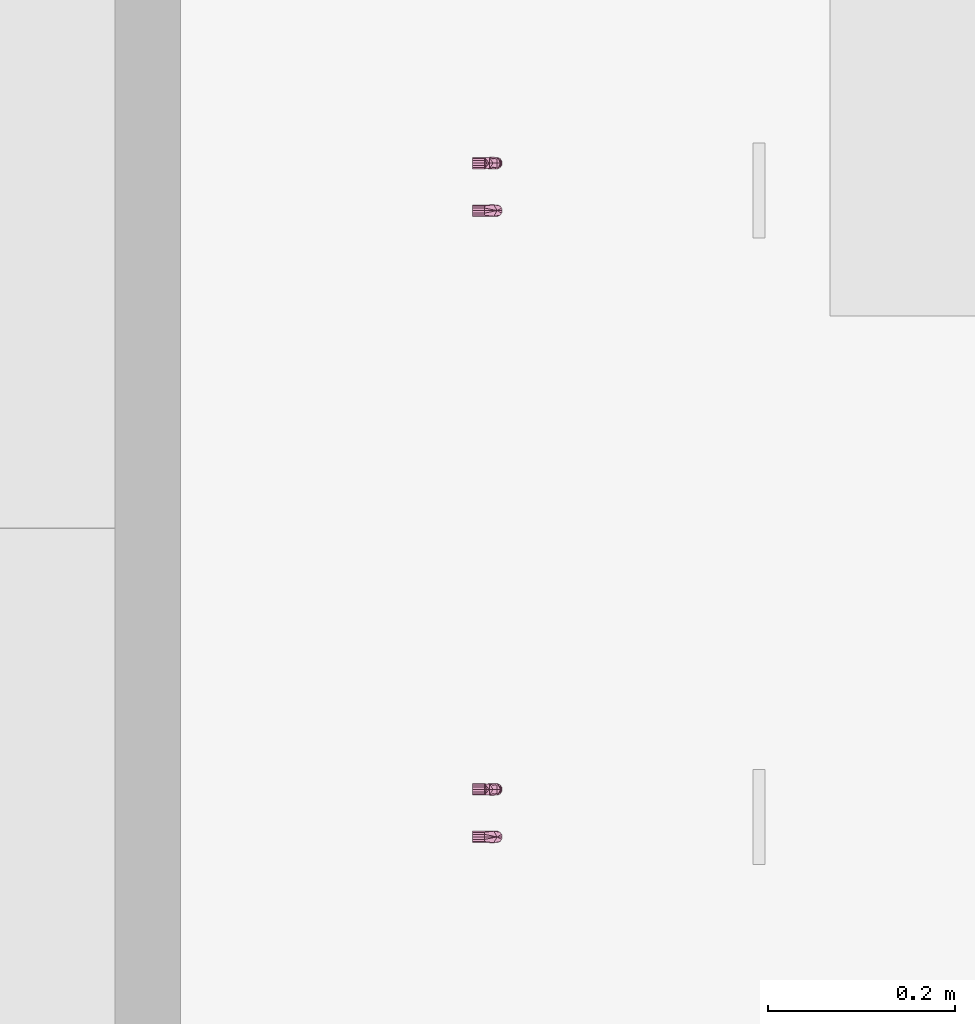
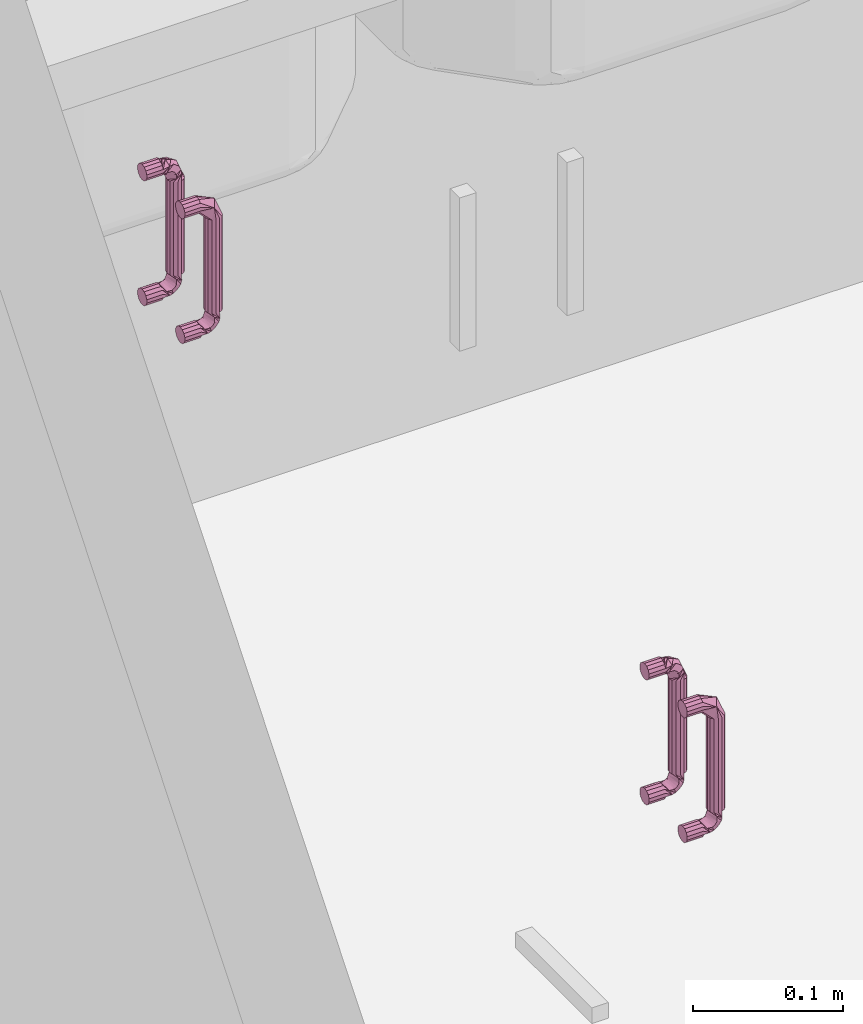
# One storey, part 29 of 40: 2 furnishings.
"""IFC2X3 building model written with IfcOpenShell, lengths in metres."""

from ifc_helpers import new_model, entity, si_unit, converted_unit, derived_unit, direction, frame, origin, place, context, subcontext, project, spatial, faceted_brep, source, transform, mapped, material, type_object, type_shapes, element, save


model = new_model("IFC2X3")

# Units and contexts
model_context = context("Model", 3, precision=1e-05, world=origin(), true_north=direction((6.12303176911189e-17, 1.0)))
body_context = subcontext(model_context, "Body", "Model", "MODEL_VIEW")
ifc_project = project(units=[si_unit("LENGTHUNIT", "METRE"), si_unit("AREAUNIT", "SQUARE_METRE"), si_unit("VOLUMEUNIT", "CUBIC_METRE"), converted_unit("PLANEANGLEUNIT", "DEGREE", entity("IfcRatioMeasure", 0.0174532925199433), si_unit("PLANEANGLEUNIT", "RADIAN"), dimensions=[0, 0, 0, 0, 0, 0, 0]), si_unit("MASSUNIT", "GRAM", prefix="KILO"), derived_unit("MASSDENSITYUNIT", [(si_unit("MASSUNIT", "GRAM", prefix="KILO"), 1), (si_unit("LENGTHUNIT", "METRE"), -3)]), si_unit("TIMEUNIT", "SECOND"), si_unit("FREQUENCYUNIT", "HERTZ"), si_unit("THERMODYNAMICTEMPERATUREUNIT", "DEGREE_CELSIUS"), derived_unit("THERMALTRANSMITTANCEUNIT", [(si_unit("MASSUNIT", "GRAM", prefix="KILO"), 1), (si_unit("THERMODYNAMICTEMPERATUREUNIT", "KELVIN"), -1), (si_unit("TIMEUNIT", "SECOND"), -3)]), derived_unit("VOLUMETRICFLOWRATEUNIT", [(si_unit("LENGTHUNIT", "METRE"), 3), (si_unit("TIMEUNIT", "SECOND"), -1)]), si_unit("ELECTRICCURRENTUNIT", "AMPERE"), si_unit("ELECTRICVOLTAGEUNIT", "VOLT"), si_unit("POWERUNIT", "WATT"), si_unit("FORCEUNIT", "NEWTON", prefix="KILO"), si_unit("ILLUMINANCEUNIT", "LUX"), si_unit("LUMINOUSFLUXUNIT", "LUMEN"), si_unit("LUMINOUSINTENSITYUNIT", "CANDELA"), derived_unit("USERDEFINED", [(si_unit("MASSUNIT", "GRAM", prefix="KILO"), -1), (si_unit("LENGTHUNIT", "METRE"), -2), (si_unit("TIMEUNIT", "SECOND"), 3), (si_unit("LUMINOUSFLUXUNIT", "LUMEN"), 1)]), derived_unit("LINEARVELOCITYUNIT", [(si_unit("LENGTHUNIT", "METRE"), 1), (si_unit("TIMEUNIT", "SECOND"), -1)]), si_unit("PRESSUREUNIT", "PASCAL"), derived_unit("USERDEFINED", [(si_unit("LENGTHUNIT", "METRE"), -2), (si_unit("MASSUNIT", "GRAM", prefix="KILO"), 1), (si_unit("TIMEUNIT", "SECOND"), -2)])], contexts=[model_context])

# Site, building, storey, space
site_placement = place(None, origin())
site = spatial("IfcSite", under=ifc_project, at=site_placement, Name="Surface", CompositionType="ELEMENT")
building_placement = place(site_placement, origin())
building = spatial("IfcBuilding", under=site, at=building_placement, CompositionType="ELEMENT")
storey_placement = place(building_placement, origin())
storey = spatial("IfcBuildingStorey", under=building, at=storey_placement, Name="RDC", CompositionType="ELEMENT", Elevation=-1.0941605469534e-13)
space_placement = place(storey_placement, origin())
space = spatial("IfcSpace", under=storey, at=space_placement, Name="21", CompositionType="ELEMENT", InteriorOrExteriorSpace="INTERNAL")

# Furnishings
ifc_material = material(Name="Plastique - Noir")
furniture_type = type_object("IfcFurnitureType", Name="670 mm", material=ifc_material)
shared_shape = source(origin(), body_context, "Body", "Brep", [
    faceted_brep([(0.0536136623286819, 0.0, 0.10557833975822), (0.0558231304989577, 0.0, 0.103816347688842), (0.0585782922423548, 0.0, 0.103187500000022), (0.0613334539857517, 0.0, 0.103816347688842), (0.0635429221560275, 0.0, 0.10557833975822), (0.0647690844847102, 0.0, 0.108124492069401), (0.0647690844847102, 0.0, 0.110950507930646), (0.0635429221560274, 0.0, 0.113496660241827), (0.0613334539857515, 0.0, 0.115258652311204), (0.0585782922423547, 0.0, 0.115887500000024), (0.0558231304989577, 0.0, 0.115258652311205), (0.0536136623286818, 0.0, 0.113496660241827), (0.052387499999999, 0.0, 0.110950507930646), (0.052387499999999, 0.0, 0.1081244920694), (0.0585782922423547, 0.0, 0.0142875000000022), (0.0558231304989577, 0.0, 0.0136586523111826), (0.0536136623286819, 0.0, 0.0118966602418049), (0.0523874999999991, 0.0, 0.00935050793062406), (0.0523874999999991, 0.0, 0.00652449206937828), (0.0536136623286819, 0.0, 0.00397833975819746), (0.0558231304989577, 0.0, 0.00221634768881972), (0.0585782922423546, 0.0, 0.00158750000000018), (0.0613334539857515, 0.0, 0.00221634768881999), (0.0635429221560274, 0.0, 0.00397833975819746), (0.0647690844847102, 0.0, 0.00652449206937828), (0.0647690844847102, 0.0, 0.00935050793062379), (0.0635429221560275, 0.0, 0.0118966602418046), (0.0613334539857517, 0.0, 0.0136586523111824), (0.0585782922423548, 0.0127000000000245, 0.103187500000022), (0.0613334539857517, 0.0127000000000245, 0.103816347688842), (0.0635429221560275, 0.0127000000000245, 0.10557833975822), (0.0647690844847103, 0.0127000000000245, 0.108124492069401), (0.0647690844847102, 0.0127000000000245, 0.110950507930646), (0.0647690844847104, 0.0239869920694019, 0.0206375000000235), (0.0647690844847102, 0.0268130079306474, 0.0206375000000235), (0.0647690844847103, 0.0268130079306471, 0.0968375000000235), (0.0647690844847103, 0.0239869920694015, 0.0968375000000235), (0.0647690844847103, 0.0127000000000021, 0.00652449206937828), (0.0647690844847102, 0.0127000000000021, 0.00935050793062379), (0.0635429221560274, 0.0127000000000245, 0.113496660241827), (0.0613334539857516, 0.0127000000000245, 0.115258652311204), (0.0585782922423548, 0.0127000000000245, 0.115887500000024), (0.0558231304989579, 0.0127000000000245, 0.115258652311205), (0.053613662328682, 0.0127000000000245, 0.113496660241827), (0.0523874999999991, 0.0127000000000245, 0.110950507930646), (0.0523874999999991, 0.0127000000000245, 0.1081244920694), (0.0523874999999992, 0.0268130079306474, 0.0206375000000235), (0.0523874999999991, 0.0239869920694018, 0.0206375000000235), (0.0523874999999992, 0.0239869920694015, 0.0968375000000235), (0.0523874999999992, 0.0268130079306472, 0.0968375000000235), (0.0523874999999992, 0.0127000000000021, 0.00935050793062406), (0.0523874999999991, 0.0127000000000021, 0.00652449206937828), (0.0536136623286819, 0.0127000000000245, 0.10557833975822), (0.0558231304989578, 0.0127000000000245, 0.103816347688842), (0.0647426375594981, 0.0227580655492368, 0.106895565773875), (0.0635429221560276, 0.0214408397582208, 0.0968375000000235), (0.0613334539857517, 0.0196788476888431, 0.0968375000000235), (0.0585782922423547, 0.0261703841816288, 0.110307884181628), (0.0585782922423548, 0.0171901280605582, 0.101327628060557), (0.0585782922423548, 0.0190500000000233, 0.0968375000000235), (0.0635429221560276, 0.0293591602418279, 0.0968375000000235), (0.0613334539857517, 0.0311211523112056, 0.0968375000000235), (0.0585782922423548, 0.0317500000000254, 0.0968375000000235), (0.0524139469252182, 0.0227580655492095, 0.106895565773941), (0.0536136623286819, 0.0214408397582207, 0.0968375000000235), (0.0558231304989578, 0.019678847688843, 0.0968375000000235), (0.0536136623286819, 0.029359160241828, 0.0968375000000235), (0.0558231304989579, 0.0311211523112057, 0.0968375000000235), (0.0585782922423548, 0.0190500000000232, 0.0206375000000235), (0.0613334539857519, 0.0196788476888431, 0.0206375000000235), (0.0635429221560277, 0.021440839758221, 0.0206375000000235), (0.0635429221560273, 0.0293591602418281, 0.0206375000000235), (0.0613334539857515, 0.0311211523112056, 0.0206375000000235), (0.0595979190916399, 0.0315172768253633, 0.0206375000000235), (0.0585782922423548, 0.0317500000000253, 0.0206375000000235), (0.0575586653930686, 0.0315172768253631, 0.0206375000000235), (0.055823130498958, 0.0311211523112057, 0.0206375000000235), (0.0536136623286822, 0.0293591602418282, 0.0206375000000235), (0.0536136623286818, 0.0214408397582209, 0.0206375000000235), (0.0558231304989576, 0.019678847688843, 0.0206375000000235), (0.0642824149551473, 0.0180594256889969, 0.00610394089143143), (0.0585782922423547, 0.0177817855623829, 0.00369244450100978), (0.0585782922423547, 0.0198789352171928, 0.00456111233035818), (0.0585782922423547, 0.0219760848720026, 0.00542978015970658), (0.0585782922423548, 0.0314868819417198, 0.0200022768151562), (0.0585782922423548, 0.0306975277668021, 0.018096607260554), (0.0585782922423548, 0.0312237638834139, 0.0193670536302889), (0.064282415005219, 0.0272335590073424, 0.0152780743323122), (0.0585782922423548, 0.0296450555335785, 0.0155557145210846), (0.0585782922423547, 0.0279077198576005, 0.0113614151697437), (0.0633238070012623, 0.0271480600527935, 0.0118331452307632), (0.0585782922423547, 0.0270390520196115, 0.00926426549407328), (0.0632866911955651, 0.0255502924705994, 0.00956794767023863), (0.0649134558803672, 0.0229286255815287, 0.0138673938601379), (0.0585782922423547, 0.0287763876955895, 0.0134585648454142), (0.0630302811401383, 0.0237059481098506, 0.00738339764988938), (0.0585782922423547, 0.0261703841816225, 0.00716711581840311), (0.0645648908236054, 0.0228709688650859, 0.017714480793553), (0.0595979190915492, 0.0127000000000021, 0.00182022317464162), (0.0585782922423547, 0.0127000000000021, 0.00158749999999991), (0.0585782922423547, 0.0133352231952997, 0.00185061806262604), (0.0585782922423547, 0.0139704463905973, 0.00211373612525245), (0.0585782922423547, 0.0152408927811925, 0.00263997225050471), (0.0613334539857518, 0.0127000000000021, 0.00221634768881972), (0.0645648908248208, 0.0156230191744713, 0.010466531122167), (0.0635429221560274, 0.0127000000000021, 0.0118966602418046), (0.0585782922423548, 0.0127000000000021, 0.0142875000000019), (0.0613334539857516, 0.0127000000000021, 0.0136586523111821), (0.0635429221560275, 0.0127000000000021, 0.00397833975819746), (0.0585782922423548, 0.014945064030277, 0.0152174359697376), (0.0585782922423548, 0.0181200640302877, 0.0183924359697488), (0.0585782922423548, 0.0171901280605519, 0.0161473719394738), (0.0649134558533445, 0.0194701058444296, 0.0104088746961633), (0.0649215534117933, 0.0214734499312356, 0.0118640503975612), (0.0636450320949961, 0.0210762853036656, 0.00638969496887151), (0.0585782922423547, 0.0240732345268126, 0.00629844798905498), (0.05287416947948, 0.0272335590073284, 0.0152780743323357), (0.052874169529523, 0.0180594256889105, 0.00610394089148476), (0.0575586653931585, 0.0127000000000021, 0.00182022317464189), (0.0558231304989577, 0.0127000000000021, 0.00221634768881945), (0.0525916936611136, 0.0228709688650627, 0.0177144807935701), (0.0522350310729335, 0.0214734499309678, 0.0118640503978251), (0.0522431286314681, 0.0194701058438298, 0.0104088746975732), (0.0541263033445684, 0.0237059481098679, 0.00738339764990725), (0.0536136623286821, 0.0127000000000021, 0.0118966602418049), (0.0525916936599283, 0.0156230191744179, 0.0104665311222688), (0.0522431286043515, 0.0229286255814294, 0.0138673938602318), (0.0536136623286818, 0.0127000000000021, 0.00397833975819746), (0.0535115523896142, 0.0210762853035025, 0.00638969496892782), (0.0538698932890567, 0.0255502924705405, 0.00956794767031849), (0.0538327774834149, 0.0271480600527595, 0.011833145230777), (0.0558231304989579, 0.0127000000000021, 0.0136586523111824)], [[[0, 1, 2, 3, 4, 5, 6, 7, 8, 9, 10, 11, 12, 13]], [[14, 15, 16, 17, 18, 19, 20, 21, 22, 23, 24, 25, 26, 27]], [[2, 28, 29, 3]], [[29, 30, 4, 3]], [[31, 5, 4, 30]], [[31, 32, 6, 5]], [[33, 34, 35, 36]], [[25, 24, 37, 38]], [[6, 32, 39, 7]], [[39, 40, 8, 7]], [[41, 9, 8, 40]], [[9, 41, 42, 10]], [[42, 43, 11, 10]], [[44, 12, 11, 43]], [[44, 45, 13, 12]], [[46, 47, 48, 49]], [[18, 17, 50, 51]], [[13, 45, 52, 0]], [[52, 53, 1, 0]], [[28, 2, 1, 53]], [[54, 31, 30]], [[55, 30, 29, 56]], [[39, 54, 57]], [[54, 30, 55]], [[41, 40, 57]], [[32, 54, 39]], [[54, 32, 31]], [[39, 57, 40]], [[29, 28, 58]], [[58, 59, 56]], [[60, 54, 35]], [[36, 54, 55]], [[57, 54, 60]], [[57, 61, 62]], [[60, 61, 57]], [[54, 36, 35]], [[58, 56, 29]], [[42, 41, 57]], [[57, 63, 43]], [[57, 43, 42]], [[45, 44, 63]], [[43, 63, 44]], [[64, 65, 53, 52]], [[58, 28, 53]], [[45, 63, 52]], [[49, 48, 63]], [[63, 66, 49]], [[67, 66, 57]], [[64, 63, 48]], [[59, 58, 65]], [[66, 63, 57]], [[65, 58, 53]], [[52, 63, 64]], [[67, 57, 62]], [[59, 68, 69, 56]], [[70, 33, 36, 55]], [[56, 69, 70, 55]], [[34, 71, 60, 35]], [[61, 72, 73, 74, 62]], [[71, 72, 61, 60]], [[62, 74, 75, 76, 67]], [[76, 77, 66, 67]], [[46, 49, 66, 77]], [[48, 47, 78, 64]], [[64, 78, 79, 65]], [[65, 79, 68, 59]], [[80, 81, 82, 83]], [[84, 74, 73, 72, 85, 86]], [[34, 87, 88]], [[71, 85, 72]], [[89, 90, 91]], [[92, 90, 93]], [[87, 89, 94, 88]], [[87, 34, 33]], [[92, 95, 96]], [[87, 33, 70]], [[88, 71, 34]], [[70, 69, 97]], [[98, 99, 100, 101, 102, 103]], [[92, 91, 90]], [[104, 105, 80]], [[104, 106, 107]], [[107, 105, 104]], [[102, 81, 108]], [[88, 85, 71]], [[91, 92, 96]], [[81, 37, 108]], [[104, 109, 106]], [[97, 110, 93]], [[102, 108, 103]], [[70, 97, 87]], [[111, 112, 113]], [[38, 80, 105]], [[80, 38, 37]], [[114, 95, 112]], [[68, 97, 69]], [[90, 97, 93]], [[114, 104, 80]], [[112, 109, 104]], [[110, 97, 68]], [[110, 111, 93]], [[93, 113, 92]], [[92, 113, 95]], [[112, 104, 114]], [[114, 115, 95]], [[89, 87, 90]], [[97, 90, 87]], [[111, 113, 93]], [[95, 113, 112]], [[80, 83, 114]], [[112, 111, 109]], [[115, 114, 83]], [[115, 96, 95]], [[81, 80, 37]], [[75, 74, 84, 86, 85, 76]], [[88, 46, 77]], [[116, 88, 94, 89]], [[117, 83, 82, 81]], [[76, 85, 77]], [[118, 119, 102, 101, 100, 99]], [[78, 120, 79]], [[79, 120, 68]], [[121, 122, 111]], [[123, 122, 121]], [[124, 125, 117]], [[110, 120, 126]], [[47, 116, 78]], [[50, 117, 51]], [[81, 127, 51]], [[116, 47, 46]], [[128, 122, 123]], [[85, 88, 77]], [[88, 116, 46]], [[120, 78, 116]], [[124, 117, 50]], [[127, 102, 119]], [[81, 102, 127]], [[121, 111, 126]], [[91, 129, 130]], [[117, 81, 51]], [[91, 130, 89]], [[91, 96, 129]], [[124, 131, 125]], [[130, 120, 116]], [[126, 111, 110]], [[106, 125, 131]], [[128, 125, 122]], [[126, 130, 129]], [[68, 120, 110]], [[123, 129, 96]], [[121, 126, 129]], [[128, 115, 83]], [[128, 117, 125]], [[120, 130, 126]], [[116, 89, 130]], [[123, 121, 129]], [[125, 109, 122]], [[128, 123, 115]], [[83, 117, 128]], [[123, 96, 115]], [[109, 125, 106]], [[109, 111, 122]], [[106, 14, 27, 107]], [[27, 26, 105, 107]], [[25, 38, 105, 26]], [[37, 24, 23, 108]], [[23, 22, 103, 108]], [[21, 99, 98, 103, 22]], [[99, 21, 20, 119, 118]], [[20, 19, 127, 119]], [[18, 51, 127, 19]], [[50, 17, 16, 124]], [[16, 15, 131, 124]], [[14, 106, 131, 15]]]),
    faceted_brep([(0.00502313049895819, 0.0, 0.103816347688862), (0.00777829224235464, 0.0, 0.103187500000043), (0.0105334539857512, 0.0, 0.103816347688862), (0.0127429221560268, 0.0, 0.10557833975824), (0.0139690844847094, 0.0, 0.10812449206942), (0.0139690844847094, 0.0, 0.110950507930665), (0.0127429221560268, 0.0, 0.113496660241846), (0.0105334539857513, 0.0, 0.115258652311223), (0.00777829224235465, 0.0, 0.115887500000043), (0.00502313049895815, 0.0, 0.115258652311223), (0.00281366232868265, 0.0, 0.113496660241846), (0.00158750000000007, 0.0, 0.110950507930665), (0.00158750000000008, 0.0, 0.10812449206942), (0.00281366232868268, 0.0, 0.10557833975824), (0.0127429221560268, 0.0, 0.003978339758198), (0.0139690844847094, 0.0, 0.00652449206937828), (0.0139690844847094, 0.0, 0.00935050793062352), (0.0127429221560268, 0.0, 0.0118966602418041), (0.0105334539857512, 0.0, 0.0136586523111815), (0.0077782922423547, 0.0, 0.0142875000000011), (0.00502313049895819, 0.0, 0.0136586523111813), (0.00281366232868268, 0.0, 0.0118966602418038), (0.00158750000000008, 0.0, 0.00935050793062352), (0.00158750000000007, 0.0, 0.00652449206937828), (0.00281366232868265, 0.0, 0.003978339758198), (0.00502313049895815, 0.0, 0.00221634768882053), (0.00777829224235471, 0.0, 0.00158750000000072), (0.0105334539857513, 0.0, 0.00221634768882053), (0.0077782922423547, 0.0126999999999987, 0.103187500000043), (0.0105334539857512, 0.0126999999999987, 0.103816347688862), (0.0127429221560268, 0.0126999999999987, 0.10557833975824), (0.0139690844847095, 0.0126999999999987, 0.10812449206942), (0.0139690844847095, 0.0126999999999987, 0.110950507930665), (0.0139690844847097, 0.023986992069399, 0.0206375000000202), (0.0139690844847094, 0.0268130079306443, 0.0206375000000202), (0.0139690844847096, 0.0268130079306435, 0.0968375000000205), (0.0139690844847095, 0.0239869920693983, 0.0968375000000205), (0.0139690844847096, 0.0127000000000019, 0.00652449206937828), (0.0139690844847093, 0.0127000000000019, 0.00935050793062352), (0.012742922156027, 0.0126999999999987, 0.113496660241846), (0.0105334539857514, 0.0126999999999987, 0.115258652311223), (0.00879791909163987, 0.0126999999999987, 0.115654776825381), (0.00777829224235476, 0.0126999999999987, 0.115887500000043), (0.00675866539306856, 0.0126999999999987, 0.11565477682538), (0.00502313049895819, 0.0126999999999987, 0.115258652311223), (0.00281366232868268, 0.0126999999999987, 0.113496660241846), (0.00158750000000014, 0.0126999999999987, 0.110950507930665), (0.00158750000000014, 0.0126999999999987, 0.10812449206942), (0.00158750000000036, 0.0268130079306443, 0.0206375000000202), (0.00158750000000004, 0.0239869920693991, 0.0206375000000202), (0.0015875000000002, 0.0239869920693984, 0.0968375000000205), (0.0015875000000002, 0.0268130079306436, 0.0968375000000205), (0.00158750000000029, 0.0127000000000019, 0.00935050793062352), (0.0015875, 0.0127000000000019, 0.00652449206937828), (0.00281366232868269, 0.0126999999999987, 0.10557833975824), (0.00502313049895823, 0.0126999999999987, 0.103816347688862), (0.0134824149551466, 0.0272335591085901, 0.102196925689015), (0.00777829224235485, 0.0296450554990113, 0.101919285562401), (0.00777829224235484, 0.0287763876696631, 0.104016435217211), (0.00777829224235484, 0.0279077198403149, 0.106113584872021), (0.00777829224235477, 0.0133352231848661, 0.115624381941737), (0.00777829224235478, 0.0152408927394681, 0.114835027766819), (0.00777829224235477, 0.0139704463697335, 0.115361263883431), (0.0134824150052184, 0.0180594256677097, 0.11137105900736), (0.00777829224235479, 0.0177817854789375, 0.113782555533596), (0.00777829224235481, 0.0219760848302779, 0.112045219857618), (0.0125238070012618, 0.0215043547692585, 0.111285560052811), (0.00777829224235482, 0.0240732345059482, 0.111176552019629), (0.0137648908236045, 0.015623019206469, 0.107008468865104), (0.00777829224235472, 0.0149450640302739, 0.102257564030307), (0.0141134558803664, 0.0194701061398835, 0.107066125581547), (0.0077782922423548, 0.0198789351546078, 0.112913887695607), (0.0124866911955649, 0.0237695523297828, 0.109687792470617), (0.0122302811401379, 0.0259541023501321, 0.107843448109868), (0.00777829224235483, 0.0261703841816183, 0.11030788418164), (0.00879791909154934, 0.0315172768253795, 0.0968375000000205), (0.00777829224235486, 0.0317500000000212, 0.0968375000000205), (0.00777829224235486, 0.031486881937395, 0.097472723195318), (0.00777829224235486, 0.0312237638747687, 0.0981079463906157), (0.00777829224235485, 0.0306975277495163, 0.0993783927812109), (0.0105334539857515, 0.0311211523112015, 0.0968375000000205), (0.0137648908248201, 0.022870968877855, 0.0997605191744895), (0.0127429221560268, 0.0214408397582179, 0.0968375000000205), (0.00777829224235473, 0.0190500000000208, 0.0968375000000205), (0.0105334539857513, 0.0196788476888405, 0.0968375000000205), (0.012742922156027, 0.029359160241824, 0.0968375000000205), (0.00777829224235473, 0.0181200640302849, 0.0990825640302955), (0.00777829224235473, 0.017190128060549, 0.101327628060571), (0.0141134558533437, 0.0229286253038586, 0.103607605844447), (0.0141215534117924, 0.0214734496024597, 0.105610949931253), (0.0128450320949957, 0.0269478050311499, 0.105213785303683), (0.00777829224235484, 0.0270390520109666, 0.10821073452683), (0.00207416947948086, 0.0180594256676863, 0.111371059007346), (0.00207416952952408, 0.0272335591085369, 0.102196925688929), (0.00675866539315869, 0.0315172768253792, 0.0968375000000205), (0.0050231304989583, 0.0311211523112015, 0.0968375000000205), (0.00179169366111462, 0.0156230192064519, 0.107008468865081), (0.00143503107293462, 0.0214734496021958, 0.105610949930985), (0.00144312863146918, 0.0229286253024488, 0.103607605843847), (0.00332630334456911, 0.0259541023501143, 0.107843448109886), (0.00281366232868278, 0.0214408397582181, 0.0968375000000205), (0.00179169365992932, 0.0228709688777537, 0.0997605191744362), (0.00281366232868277, 0.029359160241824, 0.0968375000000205), (0.00271155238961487, 0.0269478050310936, 0.10521378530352), (0.00144312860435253, 0.0194701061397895, 0.107066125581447), (0.00306989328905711, 0.0237695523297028, 0.109687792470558), (0.00303277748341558, 0.0215043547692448, 0.111285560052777), (0.00502313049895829, 0.0196788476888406, 0.0968375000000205), (0.00777829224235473, 0.0190500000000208, 0.0206375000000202), (0.0105334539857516, 0.0196788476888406, 0.0206375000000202), (0.0127429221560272, 0.0214408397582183, 0.0206375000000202), (0.0127429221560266, 0.0293591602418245, 0.0206375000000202), (0.0105334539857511, 0.0311211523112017, 0.0206375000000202), (0.00879791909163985, 0.0315172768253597, 0.0206375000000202), (0.00777829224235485, 0.0317500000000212, 0.0206375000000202), (0.00675866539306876, 0.0315172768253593, 0.0206375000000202), (0.00502313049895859, 0.0311211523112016, 0.0206375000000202), (0.00281366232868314, 0.0293591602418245, 0.0206375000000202), (0.00281366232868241, 0.0214408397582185, 0.0206375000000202), (0.005023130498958, 0.0196788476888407, 0.0206375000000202), (0.0134824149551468, 0.0180594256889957, 0.00610394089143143), (0.00777829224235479, 0.0177817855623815, 0.00369244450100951), (0.0077782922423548, 0.0198789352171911, 0.00456111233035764), (0.00777829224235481, 0.0219760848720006, 0.00542978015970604), (0.00777829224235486, 0.0314868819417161, 0.0200022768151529), (0.00777829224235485, 0.0306975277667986, 0.0180966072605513), (0.00777829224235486, 0.0312237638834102, 0.0193670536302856), (0.0134824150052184, 0.0272335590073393, 0.01527807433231), (0.00777829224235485, 0.0296450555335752, 0.0155557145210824), (0.00777829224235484, 0.0279077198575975, 0.0113614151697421), (0.0125238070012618, 0.0271480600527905, 0.0118331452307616), (0.00777829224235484, 0.0270390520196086, 0.00926426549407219), (0.0137648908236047, 0.0228709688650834, 0.0177144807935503), (0.00777829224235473, 0.018120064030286, 0.018392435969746), (0.0141134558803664, 0.0229286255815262, 0.013867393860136), (0.00777829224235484, 0.0287763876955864, 0.0134585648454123), (0.0124866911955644, 0.0255502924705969, 0.00956794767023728), (0.0122302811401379, 0.0237059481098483, 0.00738339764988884), (0.00777829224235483, 0.0261703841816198, 0.0071671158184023), (0.00879791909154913, 0.0127000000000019, 0.00182022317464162), (0.00777829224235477, 0.0127000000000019, 0.00158750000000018), (0.00777829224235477, 0.0133352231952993, 0.00185061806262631), (0.00777829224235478, 0.0139704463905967, 0.00211373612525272), (0.00777829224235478, 0.0152408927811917, 0.00263997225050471), (0.0105334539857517, 0.0127000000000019, 0.00221634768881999), (0.01376489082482, 0.0156230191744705, 0.0104665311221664), (0.0127429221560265, 0.0127000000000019, 0.0118966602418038), (0.0077782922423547, 0.0127000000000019, 0.0142875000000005), (0.0105334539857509, 0.0127000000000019, 0.013658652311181), (0.0127429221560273, 0.0127000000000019, 0.00397833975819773), (0.00777829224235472, 0.0149450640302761, 0.0152174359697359), (0.00777829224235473, 0.0171901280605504, 0.0161473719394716), (0.0141134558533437, 0.0194701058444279, 0.0104088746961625), (0.0141215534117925, 0.021473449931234, 0.0118640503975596), (0.0128450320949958, 0.0210762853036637, 0.00638969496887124), (0.00777829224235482, 0.0240732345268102, 0.00629844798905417), (0.00207416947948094, 0.0272335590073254, 0.0152780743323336), (0.00207416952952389, 0.0180594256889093, 0.00610394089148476), (0.00675866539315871, 0.0127000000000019, 0.00182022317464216), (0.00502313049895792, 0.0127000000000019, 0.00221634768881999), (0.00179169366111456, 0.0228709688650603, 0.0177144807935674), (0.00143503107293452, 0.0214734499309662, 0.0118640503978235), (0.00144312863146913, 0.0194701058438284, 0.0104088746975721), (0.00332630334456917, 0.0237059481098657, 0.00738339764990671), (0.00281366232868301, 0.0127000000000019, 0.0118966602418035), (0.00179169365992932, 0.015623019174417, 0.0104665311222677), (0.00281366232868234, 0.0127000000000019, 0.00397833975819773), (0.00271155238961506, 0.0210762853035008, 0.00638969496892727), (0.0014431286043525, 0.0229286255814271, 0.0138673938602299), (0.00306989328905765, 0.0255502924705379, 0.00956794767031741), (0.00303277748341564, 0.0271480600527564, 0.0118331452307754), (0.00502313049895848, 0.0127000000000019, 0.0136586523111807)], [[[0, 1, 2, 3, 4, 5, 6, 7, 8, 9, 10, 11, 12, 13]], [[14, 15, 16, 17, 18, 19, 20, 21, 22, 23, 24, 25, 26, 27]], [[1, 28, 29, 2]], [[29, 30, 3, 2]], [[31, 4, 3, 30]], [[31, 32, 5, 4]], [[33, 34, 35, 36]], [[16, 15, 37, 38]], [[5, 32, 39, 6]], [[39, 40, 7, 6]], [[7, 40, 41, 42, 8]], [[8, 42, 43, 44, 9]], [[44, 45, 10, 9]], [[46, 11, 10, 45]], [[46, 47, 12, 11]], [[48, 49, 50, 51]], [[23, 22, 52, 53]], [[12, 47, 54, 13]], [[54, 55, 0, 13]], [[28, 1, 0, 55]], [[56, 57, 58, 59]], [[60, 42, 41, 40, 61, 62]], [[32, 63, 64]], [[39, 61, 40]], [[65, 66, 67]], [[68, 69, 70]], [[63, 65, 71, 64]], [[63, 32, 31]], [[72, 73, 74]], [[63, 31, 30]], [[64, 39, 32]], [[30, 29, 68]], [[75, 76, 77, 78, 79, 80]], [[72, 67, 66]], [[81, 82, 56]], [[81, 83, 84]], [[84, 82, 81]], [[79, 57, 85]], [[64, 61, 39]], [[67, 72, 74]], [[57, 35, 85]], [[81, 86, 83]], [[68, 28, 69]], [[79, 85, 80]], [[30, 68, 63]], [[87, 88, 89]], [[36, 56, 82]], [[56, 36, 35]], [[90, 73, 88]], [[28, 68, 29]], [[66, 68, 70]], [[90, 81, 56]], [[88, 86, 81]], [[72, 66, 70]], [[87, 70, 69]], [[70, 89, 72]], [[72, 89, 73]], [[88, 81, 90]], [[90, 91, 73]], [[65, 63, 66]], [[68, 66, 63]], [[87, 89, 70]], [[73, 89, 88]], [[56, 59, 90]], [[88, 87, 86]], [[91, 90, 59]], [[91, 74, 73]], [[57, 56, 35]], [[43, 42, 60, 62, 61, 44]], [[64, 46, 45]], [[92, 64, 71, 65]], [[93, 59, 58, 57]], [[44, 61, 45]], [[94, 95, 79, 78, 77, 76]], [[54, 96, 55]], [[55, 96, 28]], [[97, 98, 87]], [[99, 98, 97]], [[100, 101, 93]], [[69, 28, 96]], [[47, 92, 54]], [[50, 93, 51]], [[57, 102, 51]], [[92, 47, 46]], [[103, 98, 99]], [[61, 64, 45]], [[64, 92, 46]], [[96, 54, 92]], [[100, 93, 50]], [[102, 79, 95]], [[57, 79, 102]], [[97, 87, 104]], [[67, 105, 106]], [[93, 57, 51]], [[67, 106, 65]], [[67, 74, 105]], [[100, 107, 101]], [[106, 96, 92]], [[104, 69, 96]], [[83, 101, 107]], [[103, 101, 98]], [[104, 87, 69]], [[104, 106, 105]], [[99, 105, 74]], [[97, 104, 105]], [[103, 91, 59]], [[103, 93, 101]], [[96, 106, 104]], [[92, 65, 106]], [[99, 97, 105]], [[101, 86, 98]], [[103, 99, 91]], [[59, 93, 103]], [[99, 74, 91]], [[86, 101, 83]], [[86, 87, 98]], [[83, 108, 109, 84]], [[109, 110, 82, 84]], [[33, 36, 82, 110]], [[35, 34, 111, 85]], [[85, 111, 112, 80]], [[80, 112, 113, 114, 76, 75]], [[76, 114, 115, 116, 95, 94]], [[117, 48, 51, 102]], [[95, 116, 117, 102]], [[49, 118, 100, 50]], [[119, 108, 83, 107]], [[118, 119, 107, 100]], [[120, 121, 122, 123]], [[124, 114, 113, 112, 125, 126]], [[34, 127, 128]], [[111, 125, 112]], [[129, 130, 131]], [[132, 133, 134]], [[127, 129, 135, 128]], [[127, 34, 33]], [[136, 137, 138]], [[127, 33, 110]], [[128, 111, 34]], [[110, 109, 132]], [[139, 140, 141, 142, 143, 144]], [[136, 131, 130]], [[145, 146, 120]], [[145, 147, 148]], [[148, 146, 145]], [[143, 121, 149]], [[128, 125, 111]], [[131, 136, 138]], [[121, 37, 149]], [[145, 150, 147]], [[132, 108, 133]], [[143, 149, 144]], [[110, 132, 127]], [[151, 152, 153]], [[38, 120, 146]], [[120, 38, 37]], [[154, 137, 152]], [[108, 132, 109]], [[130, 132, 134]], [[154, 145, 120]], [[152, 150, 145]], [[136, 130, 134]], [[151, 134, 133]], [[134, 153, 136]], [[136, 153, 137]], [[152, 145, 154]], [[154, 155, 137]], [[129, 127, 130]], [[132, 130, 127]], [[151, 153, 134]], [[137, 153, 152]], [[120, 123, 154]], [[152, 151, 150]], [[155, 154, 123]], [[155, 138, 137]], [[121, 120, 37]], [[115, 114, 124, 126, 125, 116]], [[128, 48, 117]], [[156, 128, 135, 129]], [[157, 123, 122, 121]], [[116, 125, 117]], [[158, 159, 143, 142, 141, 140]], [[118, 160, 119]], [[119, 160, 108]], [[161, 162, 151]], [[163, 162, 161]], [[164, 165, 157]], [[133, 108, 160]], [[49, 156, 118]], [[52, 157, 53]], [[121, 166, 53]], [[156, 49, 48]], [[167, 162, 163]], [[125, 128, 117]], [[128, 156, 48]], [[160, 118, 156]], [[164, 157, 52]], [[166, 143, 159]], [[121, 143, 166]], [[161, 151, 168]], [[131, 169, 170]], [[157, 121, 53]], [[131, 170, 129]], [[131, 138, 169]], [[164, 171, 165]], [[170, 160, 156]], [[168, 133, 160]], [[147, 165, 171]], [[167, 165, 162]], [[168, 151, 133]], [[168, 170, 169]], [[163, 169, 138]], [[161, 168, 169]], [[167, 155, 123]], [[167, 157, 165]], [[160, 170, 168]], [[156, 129, 170]], [[163, 161, 169]], [[165, 150, 162]], [[167, 163, 155]], [[123, 157, 167]], [[163, 138, 155]], [[150, 165, 147]], [[150, 151, 162]], [[147, 19, 18, 148]], [[18, 17, 146, 148]], [[16, 38, 146, 17]], [[37, 15, 14, 149]], [[14, 27, 144, 149]], [[26, 140, 139, 144, 27]], [[140, 26, 25, 159, 158]], [[25, 24, 166, 159]], [[23, 53, 166, 24]], [[52, 22, 21, 164]], [[21, 20, 171, 164]], [[19, 147, 171, 20]]]),
])
type_shapes(furniture_type, [shared_shape])
for number, where, z_axis, x_axis in (
    (1, (-2.18978888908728, 5.31518896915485, 1.44286249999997), (0.0, 0.0, 1.0), (0.0, -1.0, 0.0)),
    (2, (-2.18978888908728, 5.98518896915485, 1.44286249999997), (0.0, 0.0, 1.0), (0.0, -1.0, 0.0)),
):
    element("IfcFurnishingElement", number, at=place(space_placement, frame(where, z_axis=z_axis, x_axis=x_axis)), inside=space, type_object=furniture_type, material=ifc_material, Name="Placard mural haut-Porte double vitrée:670 mm", ObjectType="670 mm", context=body_context, shape_type="MappedRepresentation", body=[
        mapped(shared_shape, transform((0.0, 0.0, 0.0), scale=1.0)),
    ])

save(model, "model.ifc")
